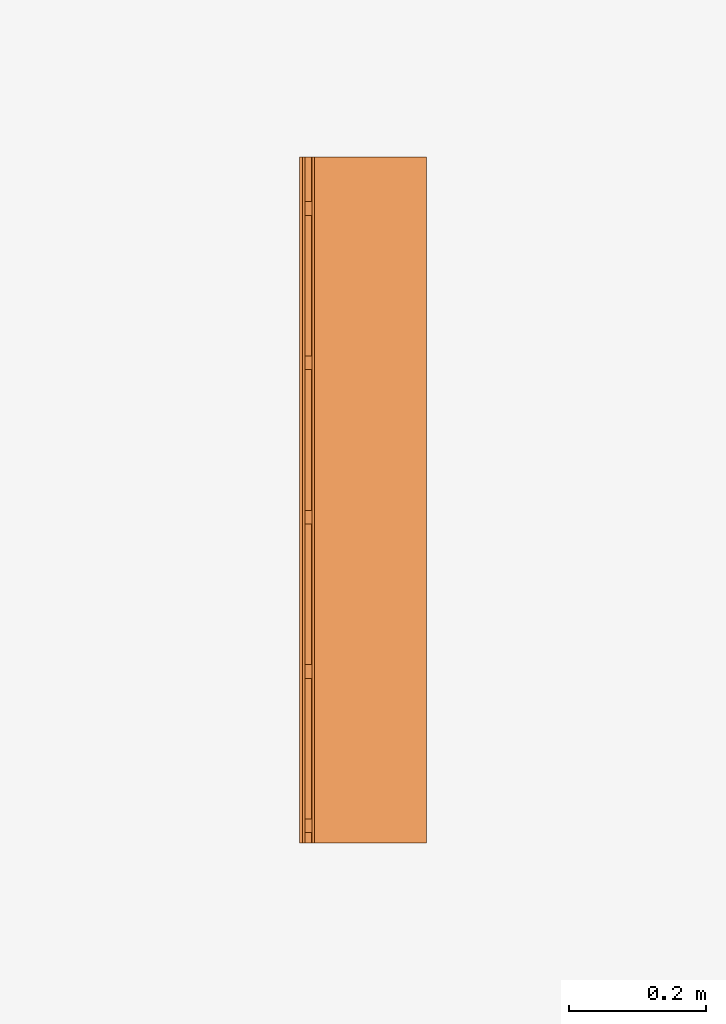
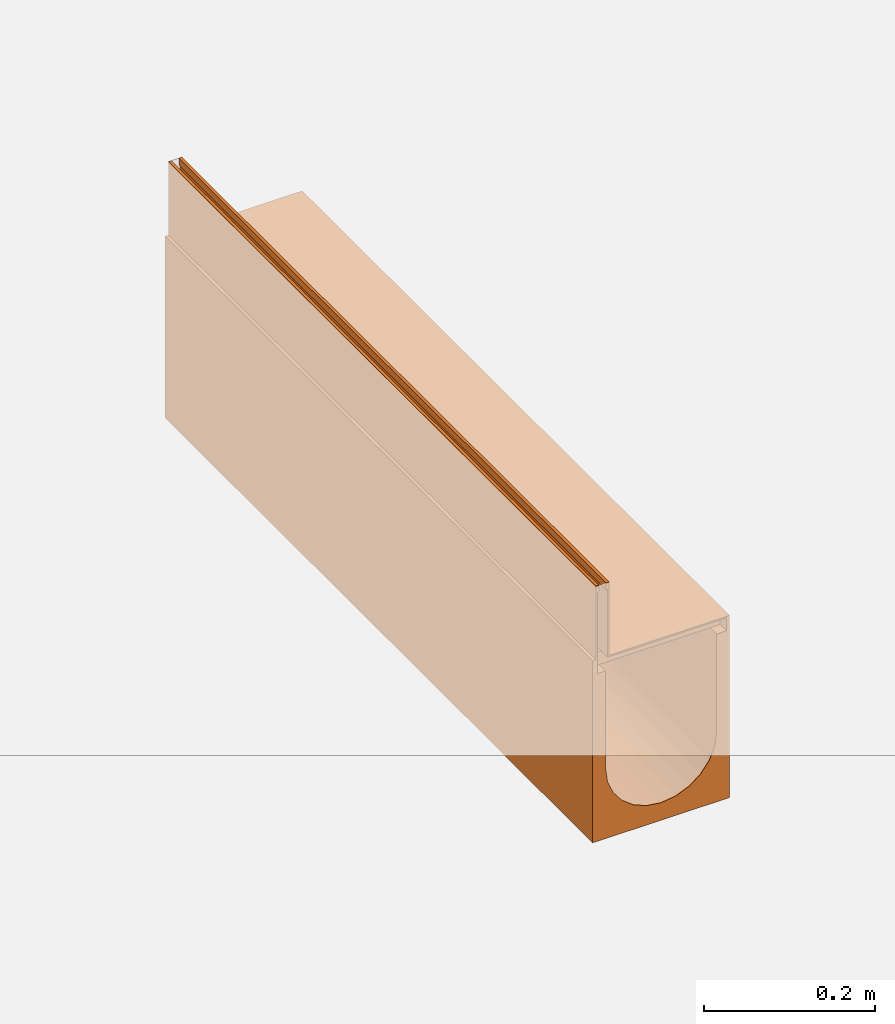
# One storey, part 2 of 2: 1 proxy.
"""IFC2X3 building model written with IfcOpenShell, lengths in millimetres."""

from ifc_helpers import new_model, entity, si_unit, converted_unit, direction, frame, origin, place, context, subcontext, project, spatial, faceted_brep, source, transform, mapped, material, material_list, element, save


model = new_model("IFC2X3")

# Units and contexts
model_context = context("Model", 3, precision=1e-06, world=origin(), true_north=direction((2.0, 6.12303176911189e-17, 1.0)))
context_of_model = context(None, 3, precision=1e-06, world=origin(), true_north=direction((2.0, 6.12303176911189e-17, 1.0)))
body_context = subcontext(model_context, "Body", "Model", "MODEL_VIEW")
ifc_project = project(units=[si_unit("LENGTHUNIT", "METRE", prefix="MILLI"), si_unit("AREAUNIT", "SQUARE_METRE", prefix="MILLI"), si_unit("VOLUMEUNIT", "CUBIC_METRE", prefix="MILLI"), converted_unit("PLANEANGLEUNIT", "DEGREE", entity("IfcRatioMeasure", 0.0174532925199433), si_unit("PLANEANGLEUNIT", "RADIAN"), dimensions=[0, 0, 0, 0, 0, 0, 0]), si_unit("TIMEUNIT", "SECOND")], contexts=[model_context, context_of_model])

# Site, building, storey
site_placement = place(None, origin())
site = spatial("IfcSite", under=ifc_project, at=site_placement, Name="Default", CompositionType="ELEMENT")
building_placement = place(site_placement, origin())
building = spatial("IfcBuilding", under=site, at=building_placement, CompositionType="ELEMENT")
storey_placement = place(building_placement, origin())
storey = spatial("IfcBuildingStorey", under=building, at=storey_placement, Name="Level 1", CompositionType="ELEMENT", Elevation=0.0)

# Proxy
ifc_material_1 = material(Name="Steel, Galvanized")
ifc_material_2 = material(Name="Vienite® Synthetic Resin Concrete")
ifc_material_list = material_list([ifc_material_1, ifc_material_2])
shared_shape = source(origin(), body_context, "Body", "Brep", [
    faceted_brep([(88.2500000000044, 465.0, -107.0), (88.2500000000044, 467.0, -109.0), (88.2500000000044, 483.0, -109.0), (88.2500000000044, 485.0, -107.0), (88.2500000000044, 467.0, -123.499999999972), (88.2500000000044, 465.0, -125.499999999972), (88.2500000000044, 483.0, -123.499999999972), (88.2500000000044, 485.0, -125.499999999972), (-86.2499999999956, 465.0, -125.499999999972), (-86.2499999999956, 467.0, -123.499999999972), (-86.2499999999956, 483.0, -123.499999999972), (-86.2499999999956, 485.0, -125.499999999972), (-86.2499999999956, 467.0, -109.0), (-86.2499999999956, 465.0, -107.0), (-86.2499999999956, 483.0, -109.0), (-86.2499999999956, 485.0, -107.0)], [[[0, 1, 2, 3]], [[4, 1, 0, 5]], [[3, 2, 6, 7]], [[6, 4, 5, 7]], [[8, 9, 10, 11]], [[12, 9, 8, 13]], [[11, 10, 14, 15]], [[14, 12, 13, 15]], [[5, 0, 13, 8]], [[7, 5, 8, 11]], [[3, 7, 11, 15]], [[0, 3, 15, 13]], [[1, 4, 9, 12]], [[14, 2, 1, 12]], [[6, 2, 14, 10]], [[9, 4, 6, 10]]]),
    faceted_brep([(88.2500000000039, 240.0, -107.0), (88.2500000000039, 242.0, -109.0), (88.2500000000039, 258.0, -109.0), (88.2500000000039, 260.0, -107.0), (88.2500000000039, 242.0, -123.499999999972), (88.2500000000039, 240.0, -125.499999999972), (88.2500000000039, 258.0, -123.499999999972), (88.2500000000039, 260.0, -125.499999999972), (-86.2499999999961, 240.0, -125.499999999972), (-86.2499999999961, 242.0, -123.499999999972), (-86.2499999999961, 258.0, -123.499999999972), (-86.2499999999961, 260.0, -125.499999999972), (-86.2499999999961, 242.0, -109.0), (-86.2499999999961, 240.0, -107.0), (-86.2499999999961, 258.0, -109.0), (-86.2499999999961, 260.0, -107.0)], [[[0, 1, 2, 3]], [[4, 1, 0, 5]], [[3, 2, 6, 7]], [[6, 4, 5, 7]], [[8, 9, 10, 11]], [[12, 9, 8, 13]], [[11, 10, 14, 15]], [[14, 12, 13, 15]], [[5, 0, 13, 8]], [[7, 5, 8, 11]], [[15, 3, 7, 11]], [[0, 3, 15, 13]], [[1, 4, 9, 12]], [[14, 2, 1, 12]], [[6, 2, 14, 10]], [[9, 4, 6, 10]]]),
    faceted_brep([(88.2500000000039, 15.0, -107.0), (88.2500000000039, 17.0, -109.0), (88.2500000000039, 33.0, -109.0), (88.2500000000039, 35.0, -107.0), (88.2500000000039, 17.0, -123.499999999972), (88.2500000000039, 15.0, -125.499999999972), (88.2500000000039, 33.0, -123.499999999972), (88.2500000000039, 35.0, -125.499999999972), (-86.2499999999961, 15.0, -125.499999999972), (-86.2499999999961, 17.0, -123.499999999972), (-86.2499999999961, 33.0, -123.499999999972), (-86.2499999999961, 35.0, -125.499999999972), (-86.2499999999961, 17.0, -109.0), (-86.2499999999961, 15.0, -107.0), (-86.2499999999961, 33.0, -109.0), (-86.2499999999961, 35.0, -107.0)], [[[0, 1, 2, 3]], [[4, 1, 0, 5]], [[3, 2, 6, 7]], [[6, 4, 5, 7]], [[8, 9, 10, 11]], [[12, 9, 8, 13]], [[11, 10, 14, 15]], [[14, 12, 13, 15]], [[5, 0, 13, 8]], [[7, 5, 8, 11]], [[3, 7, 11, 15]], [[0, 3, 15, 13]], [[12, 1, 4, 9]], [[14, 2, 1, 12]], [[10, 6, 2, 14]], [[9, 4, 6, 10]]]),
    faceted_brep([(88.2500000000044, 915.0, -107.0), (88.2500000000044, 917.0, -109.0), (88.2500000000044, 933.0, -109.0), (88.2500000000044, 935.0, -107.0), (88.2500000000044, 917.0, -123.49999999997), (88.2500000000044, 915.0, -125.49999999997), (88.2500000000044, 933.0, -123.49999999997), (88.2500000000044, 935.0, -125.49999999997), (-86.2499999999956, 915.0, -125.49999999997), (-86.2499999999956, 917.0, -123.49999999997), (-86.2499999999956, 933.0, -123.49999999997), (-86.2499999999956, 935.0, -125.49999999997), (-86.2499999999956, 917.0, -109.0), (-86.2499999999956, 915.0, -107.0), (-86.2499999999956, 933.0, -109.0), (-86.2499999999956, 935.0, -107.0)], [[[0, 1, 2, 3]], [[4, 1, 0, 5]], [[3, 2, 6, 7]], [[6, 4, 5, 7]], [[8, 9, 10, 11]], [[12, 9, 8, 13]], [[11, 10, 14, 15]], [[14, 12, 13, 15]], [[5, 0, 13, 8]], [[7, 5, 8, 11]], [[15, 3, 7, 11]], [[0, 3, 15, 13]], [[1, 4, 9, 12]], [[14, 2, 1, 12]], [[6, 2, 14, 10]], [[9, 4, 6, 10]]]),
    faceted_brep([(88.2500000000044, 690.0, -107.0), (88.2500000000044, 692.0, -109.0), (88.2500000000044, 708.0, -109.0), (88.2500000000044, 710.0, -107.0), (88.2500000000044, 692.0, -123.49999999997), (88.2500000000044, 690.0, -125.49999999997), (88.2500000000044, 708.0, -123.49999999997), (88.2500000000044, 710.0, -125.49999999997), (-86.2499999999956, 690.0, -125.49999999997), (-86.2499999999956, 692.0, -123.49999999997), (-86.2499999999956, 708.0, -123.49999999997), (-86.2499999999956, 710.0, -125.49999999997), (-86.2499999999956, 692.0, -109.0), (-86.2499999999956, 690.0, -107.0), (-86.2499999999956, 708.0, -109.0), (-86.2499999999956, 710.0, -107.0)], [[[0, 1, 2, 3]], [[4, 1, 0, 5]], [[3, 2, 6, 7]], [[6, 4, 5, 7]], [[8, 9, 10, 11]], [[12, 9, 8, 13]], [[11, 10, 14, 15]], [[14, 12, 13, 15]], [[8, 5, 0, 13]], [[7, 5, 8, 11]], [[3, 7, 11, 15]], [[0, 3, 15, 13]], [[12, 1, 4, 9]], [[14, 2, 1, 12]], [[10, 6, 2, 14]], [[9, 4, 6, 10]]]),
    faceted_brep([(-72.2499999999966, 0.0, -10.0), (-72.2499999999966, 0.0, -107.0), (-70.2499999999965, 0.0, -105.0), (-70.2499999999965, 0.0, 0.0), (-74.2499999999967, 0.0, 0.0), (-74.2499999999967, 0.0, -10.0), (88.2500000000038, 0.0, -107.0), (88.2500000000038, 0.0, -105.0), (-70.2499999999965, 1000.0, -105.0), (88.2500000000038, 1000.0, -105.0), (88.2500000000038, 1000.0, -107.0), (-72.2499999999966, 1000.0, -107.0), (-72.2499999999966, 1000.0, -10.0), (-70.2499999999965, 1000.0, 0.0), (-74.2499999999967, 1000.0, -10.0), (-74.2499999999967, 1000.0, 0.0)], [[[0, 1, 2, 3]], [[4, 5, 0, 3]], [[6, 7, 2, 1]], [[8, 9, 10, 11]], [[12, 13, 8, 11]], [[12, 14, 15, 13]], [[0, 5, 14, 12]], [[11, 1, 0, 12]], [[6, 1, 11, 10]], [[8, 2, 7, 9]], [[3, 2, 8, 13]], [[15, 4, 3, 13]], [[5, 4, 15, 14]], [[9, 7, 6, 10]]]),
    faceted_brep([(-84.2499999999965, 1000.0, 0.0), (-84.2499999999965, 1000.0, -10.0), (-86.2499999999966, 1000.0, -10.0), (-88.2499999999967, 1000.0, 0.0), (-88.2499999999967, 1000.0, -125.499999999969), (-86.2499999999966, 1000.0, -125.499999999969), (-86.2499999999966, 0.0, -10.0), (-88.2499999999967, 0.0, 0.0), (-88.2499999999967, 0.0, -125.499999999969), (-86.2499999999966, 0.0, -125.499999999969), (-84.2499999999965, 0.0, 0.0), (-84.2499999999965, 0.0, -10.0)], [[[0, 1, 2, 3]], [[4, 3, 2, 5]], [[6, 7, 8, 9]], [[10, 7, 6, 11]], [[9, 8, 4, 5]], [[6, 9, 5, 2]], [[11, 6, 2, 1]], [[10, 11, 1, 0]], [[3, 7, 10, 0]], [[4, 8, 7, 3]]]),
    faceted_brep([(88.2499999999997, 1000.0, -125.500000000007), (88.2499999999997, 1000.0, -105.0), (92.5000000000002, 1000.0, -105.0), (92.5000000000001, 1000.0, -365.0), (75.0, 1000.0, -265.0), (75.0, 1000.0, -125.500000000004), (-92.4999999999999, 1000.0, -105.0), (-88.2499999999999, 1000.0, -105.0), (-88.2499999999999, 1000.0, -125.500000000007), (-92.4999999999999, 1000.0, -365.0), (-75.0, 1000.0, -125.500000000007), (-75.0, 1000.0, -265.0), (72.4444369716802, 1000.0, -284.411428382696), (53.0330085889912, 1000.0, -318.033008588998), (64.951905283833, 1000.0, -302.500000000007), (37.5000000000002, 1000.0, -329.95190528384), (0.0, 1000.0, -340.0), (19.4114283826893, 1000.0, -337.444436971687), (-64.9519052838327, 1000.0, -302.500000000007), (-53.0330085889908, 1000.0, -318.033008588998), (-72.44443697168, 1000.0, -284.411428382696), (-37.4999999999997, 1000.0, -329.95190528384), (-19.4114283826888, 1000.0, -337.444436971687), (92.5000000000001, 0.0, -365.0), (19.4114283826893, 0.0, -337.444436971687), (0.0, 0.0, -340.0), (37.5000000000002, 0.0, -329.95190528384), (53.0330085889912, 0.0, -318.033008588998), (64.951905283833, 0.0, -302.500000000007), (72.4444369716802, 0.0, -284.411428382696), (-19.4114283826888, 0.0, -337.444436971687), (-92.4999999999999, 0.0, -365.0), (-37.4999999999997, 0.0, -329.95190528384), (-53.0330085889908, 0.0, -318.033008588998), (-64.9519052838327, 0.0, -302.500000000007), (-72.44443697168, 0.0, -284.411428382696), (75.0, 0.0, -265.0), (88.2499999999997, 0.0, -125.500000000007), (75.0, 0.0, -125.500000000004), (92.5000000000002, 0.0, -105.0), (88.2499999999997, 0.0, -105.0), (-75.0, 0.0, -265.0), (-75.0, 0.0, -125.500000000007), (-88.2499999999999, 0.0, -125.500000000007), (-88.2499999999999, 0.0, -105.0), (-92.4999999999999, 0.0, -105.0), (-20.7055236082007, 47.7259338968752, -365.0), (0.0, 45.0, -365.0), (-40.0, 55.7179676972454, -365.0), (-77.2740661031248, 104.294476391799, -365.0), (-69.2820323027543, 85.0, -365.0), (-56.5685424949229, 68.4314575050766, -365.0), (-80.0, 125.0, -365.0), (20.7055236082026, 47.7259338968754, -365.0), (40.0, 55.7179676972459, -365.0), (56.5685424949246, 68.4314575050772, -365.0), (69.2820323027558, 85.0, -365.0), (77.2740661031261, 104.294476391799, -365.0), (80.0, 125.0, -365.0), (-77.2740661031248, 145.705523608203, -365.0), (-69.2820323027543, 165.0, -365.0), (-56.5685424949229, 181.568542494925, -365.0), (-40.0, 194.282032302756, -365.0), (-20.7055236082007, 202.274066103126, -365.0), (0.0, 205.0, -365.0), (69.2820323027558, 165.0, -365.0), (56.5685424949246, 181.568542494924, -365.0), (77.2740661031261, 145.705523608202, -365.0), (20.7055236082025, 202.274066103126, -365.0), (40.0, 194.282032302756, -365.0), (75.0, 500.0, -265.0), (-75.0, 500.0, -265.0), (59.5015003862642, 412.754760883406, -310.65710735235), (28.701257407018, 587.245238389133, -334.290964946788), (9.78946440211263, 500.0, -339.358364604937), (69.290964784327, 499.999994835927, -293.701257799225), (73.5588959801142, 358.503168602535, -279.631774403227), (45.6571070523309, 500.0, -324.501500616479), (74.0403241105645, 701.518493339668, -276.959531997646), (-45.6571071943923, 412.754763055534, -324.501500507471), (-73.5588960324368, 641.496824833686, -279.631774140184), (-28.7012574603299, 500.0, -334.290964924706), (-9.78946442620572, 587.245236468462, -339.358364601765), (-59.5015005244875, 587.24523647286, -310.657107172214), (-74.0403241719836, 298.481491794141, -276.959531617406), (-69.290964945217, 500.0, -293.701257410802), (-56.5685424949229, 181.568542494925, -355.0), (-40.0, 194.282032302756, -355.0), (-20.7055236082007, 202.274066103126, -355.0), (40.0, 194.282032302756, -355.0), (-80.0, 125.0, -355.0), (-77.2740661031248, 145.705523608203, -355.0), (-69.2820323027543, 165.0, -355.0), (77.2740661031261, 145.705523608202, -355.0), (0.0, 205.0, -355.0), (20.7055236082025, 202.274066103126, -355.0), (56.5685424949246, 181.568542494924, -355.0), (69.2820323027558, 165.0, -355.0), (-77.2740661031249, 104.294476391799, -355.0), (80.0, 125.0, -355.0), (-56.5685424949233, 68.431457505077, -355.0), (-69.2820323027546, 85.0, -355.0), (-40.0, 55.7179676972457, -355.0), (0.0, 45.0, -355.0), (-20.7055236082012, 47.7259338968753, -355.0), (40.0, 55.7179676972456, -355.0), (77.2740661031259, 104.294476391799, -355.0), (69.2820323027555, 85.0, -355.0), (56.5685424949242, 68.4314575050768, -355.0), (20.7055236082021, 47.7259338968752, -355.0)], [[[0, 1, 2, 3]], [[4, 5, 0, 3]], [[6, 7, 8, 9]], [[8, 10, 11, 9]], [[4, 3, 12]], [[13, 14, 3]], [[15, 13, 3]], [[16, 17, 3, 9]], [[3, 17, 15]], [[14, 12, 3]], [[18, 19, 9]], [[20, 18, 9]], [[21, 22, 9]], [[9, 22, 16]], [[21, 9, 19]], [[20, 9, 11]], [[23, 24, 25]], [[24, 23, 26]], [[27, 26, 23]], [[28, 27, 23]], [[23, 29, 28]], [[25, 30, 31, 23]], [[31, 30, 32]], [[33, 34, 31]], [[32, 33, 31]], [[31, 34, 35]], [[36, 29, 23]], [[37, 38, 36, 23]], [[39, 40, 37, 23]], [[41, 42, 43, 31]], [[35, 41, 31]], [[43, 44, 45, 31]], [[44, 43, 8, 7]], [[6, 45, 44, 7]], [[31, 45, 6, 9]], [[31, 46, 47, 23]], [[46, 31, 48]], [[49, 50, 31]], [[51, 48, 31]], [[50, 51, 31]], [[31, 52, 49]], [[23, 53, 54]], [[53, 23, 47]], [[23, 54, 55]], [[55, 56, 23]], [[57, 58, 23]], [[56, 57, 23]], [[23, 58, 3]], [[59, 52, 9]], [[60, 59, 9]], [[61, 9, 62]], [[9, 61, 60]], [[63, 62, 9]], [[64, 63, 9, 3]], [[52, 31, 9]], [[65, 66, 3]], [[67, 65, 3]], [[68, 64, 3]], [[69, 3, 66]], [[3, 69, 68]], [[67, 3, 58]], [[2, 39, 23, 3]], [[1, 40, 39, 2]], [[37, 40, 1, 0]], [[38, 37, 0, 5]], [[4, 70, 38, 5]], [[42, 41, 71, 11]], [[11, 10, 42]], [[8, 43, 42, 10]], [[72, 27, 28]], [[73, 74, 24]], [[28, 29, 75]], [[75, 29, 76]], [[26, 27, 77]], [[76, 78, 75]], [[70, 76, 36]], [[75, 72, 28]], [[12, 78, 4]], [[24, 26, 73]], [[14, 75, 12]], [[78, 70, 4]], [[76, 29, 36]], [[15, 17, 73]], [[79, 33, 32]], [[72, 75, 14]], [[20, 11, 80]], [[14, 13, 72]], [[15, 73, 77]], [[21, 81, 22]], [[17, 16, 74]], [[24, 74, 25]], [[82, 81, 30]], [[15, 77, 13]], [[32, 30, 81]], [[83, 79, 19]], [[84, 80, 71]], [[79, 32, 81]], [[35, 34, 85]], [[83, 34, 33]], [[82, 22, 81]], [[85, 34, 83]], [[19, 79, 21]], [[71, 41, 84]], [[30, 25, 82]], [[22, 82, 16]], [[72, 77, 27]], [[82, 74, 16]], [[78, 76, 70]], [[79, 81, 21]], [[73, 17, 74]], [[18, 85, 83]], [[83, 19, 18]], [[77, 73, 26]], [[20, 80, 85]], [[77, 72, 13]], [[74, 82, 25]], [[33, 79, 83]], [[12, 75, 78]], [[20, 85, 18]], [[35, 85, 84]], [[71, 80, 11]], [[80, 84, 85]], [[35, 84, 41]], [[86, 87, 88, 89]], [[86, 90, 91, 92]], [[90, 86, 89, 93]], [[88, 94, 95, 89]], [[89, 96, 97, 93]], [[98, 90, 93, 99]], [[100, 101, 98, 102]], [[103, 104, 102, 105]], [[99, 102, 98]], [[106, 107, 108, 105]], [[99, 106, 105, 102]], [[105, 109, 103]], [[93, 67, 58, 99]], [[97, 65, 67, 93]], [[89, 69, 66, 96]], [[96, 66, 65, 97]], [[95, 68, 69, 89]], [[68, 95, 94, 64]], [[88, 63, 64, 94]], [[87, 62, 63, 88]], [[92, 60, 61, 86]], [[86, 61, 62, 87]], [[91, 59, 60, 92]], [[59, 91, 90, 52]], [[98, 49, 52, 90]], [[101, 50, 49, 98]], [[102, 48, 51, 100]], [[100, 51, 50, 101]], [[104, 46, 48, 102]], [[46, 104, 103, 47]], [[109, 53, 47, 103]], [[105, 54, 53, 109]], [[107, 56, 55, 108]], [[108, 55, 54, 105]], [[106, 57, 56, 107]], [[106, 99, 58, 57]], [[38, 70, 36]]]),
])
proxy_placement = place(storey_placement, frame((0.0, -230.0, 0.0)))
element("IfcBuildingElementProxy", 1, at=proxy_placement, inside=storey, material=ifc_material_list, Name="Civil-Drainage-Channel-ACO-MultiDrain-M150D-Brickslot-Channel-System:23151 - No 10.0 Constant Depth Channel - 1000mm LG - Invert Depth 235mm:23151 - No 10.0 Constant Depth Channel - 1000mm LG - Invert Depth 235mm", ObjectType="23151 - No 10.0 Constant Depth Channel - 1000mm LG - Invert Depth 235mm", CompositionType="ELEMENT", context=body_context, shape_type="MappedRepresentation", body=[
    mapped(shared_shape, transform((0.0, 0.0, 0.0), scale=1.0)),
])

save(model, "model.ifc")
